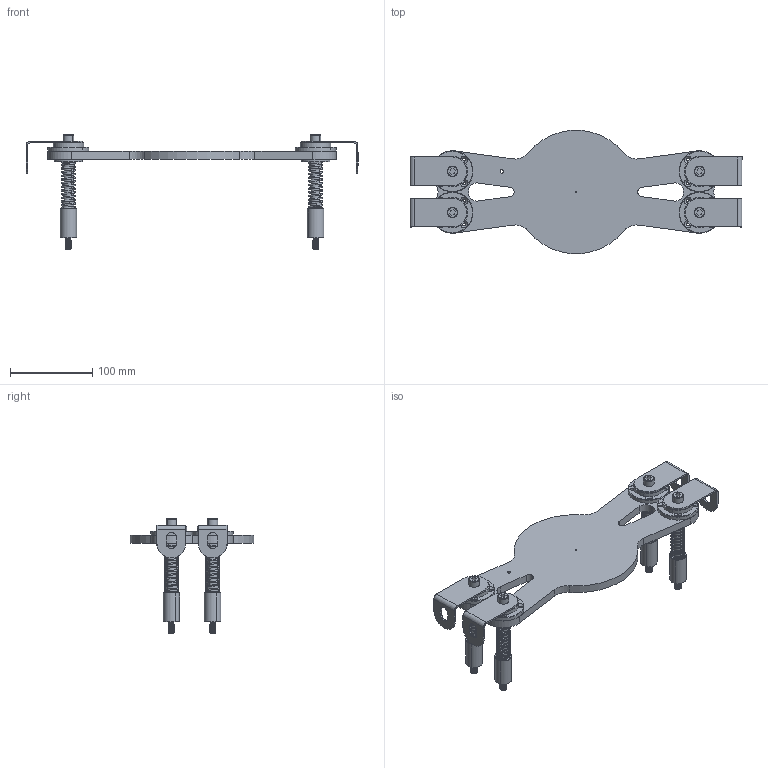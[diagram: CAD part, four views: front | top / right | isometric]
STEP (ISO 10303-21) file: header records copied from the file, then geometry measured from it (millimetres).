
FILE_DESCRIPTION (( 'STEP AP203' ), '1' );
FILE_NAME ('Floating attachment 300x50.STEP', '2020-04-07T04:51:24', ( '' ), ( '' ), 'SwSTEP 2.0', 'SolidWorks 2019', '' );
FILE_SCHEMA (( 'CONFIG_CONTROL_DESIGN' ));
Products named in the file (1): Floating attachment 300x50
Bounding box: 403 x 149.51 x 139 mm (x, y, z)
Surface area: 171660.3 mm2 (no closed solid volume)
Topology: 0 solids, 43 shells, 628 faces, 1708 edges, 1132 vertices
Faces by surface type: cylinder 308, plane 148, cone 88, bspline 44, torus 40
Entity records: 52169 total; most frequent: CARTESIAN_POINT 36535, DIRECTION 3350, ORIENTED_EDGE 3074, EDGE_CURVE 1708, AXIS2_PLACEMENT_3D 1347, VERTEX_POINT 1132, CIRCLE 762, EDGE_LOOP 744
